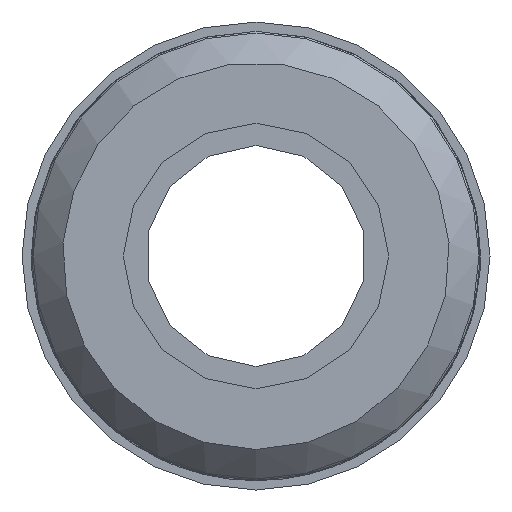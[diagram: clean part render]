
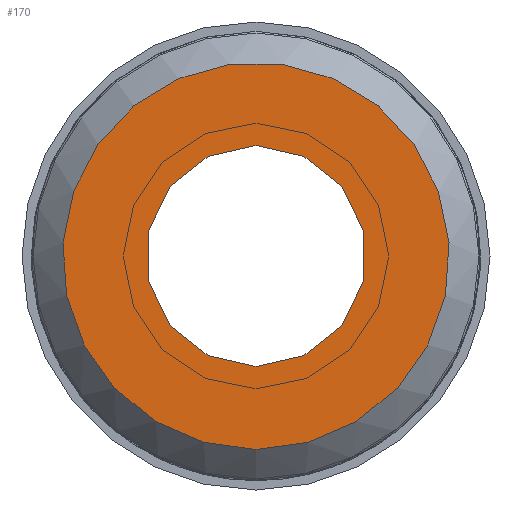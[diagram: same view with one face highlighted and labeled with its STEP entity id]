
A CAD part, front view. The second image highlights one B-rep face of the part: STEP entity #170.
In plain terms, the highlighted planar face has unit normal (0, -1, 0).
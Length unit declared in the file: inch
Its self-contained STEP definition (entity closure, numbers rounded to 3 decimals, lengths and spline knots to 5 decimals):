
#16=FACE_BOUND('',#43,.T.);
#22=PLANE('',#198);
#32=FACE_OUTER_BOUND('',#42,.T.);
#42=EDGE_LOOP('',(#133));
#43=EDGE_LOOP('',(#134,#135));
#66=CIRCLE('',#193,0.0525);
#70=CIRCLE('',#199,0.03);
#71=CIRCLE('',#200,0.03);
#83=VERTEX_POINT('',#282);
#87=VERTEX_POINT('',#294);
#88=VERTEX_POINT('',#295);
#101=EDGE_CURVE('',#83,#83,#66,.T.);
#107=EDGE_CURVE('',#87,#88,#70,.T.);
#108=EDGE_CURVE('',#88,#87,#71,.T.);
#133=ORIENTED_EDGE('',*,*,#101,.F.);
#134=ORIENTED_EDGE('',*,*,#107,.F.);
#135=ORIENTED_EDGE('',*,*,#108,.F.);
#170=ADVANCED_FACE('',(#32,#16),#22,.T.);
#193=AXIS2_PLACEMENT_3D('',#283,#223,#224);
#198=AXIS2_PLACEMENT_3D('',#293,#235,#236);
#199=AXIS2_PLACEMENT_3D('',#296,#237,#238);
#200=AXIS2_PLACEMENT_3D('',#297,#239,#240);
#223=DIRECTION('center_axis',(0.,1.,0.));
#224=DIRECTION('ref_axis',(0.,0.,1.));
#235=DIRECTION('center_axis',(0.,-1.,0.));
#236=DIRECTION('ref_axis',(0.,0.,-1.));
#237=DIRECTION('center_axis',(0.,-1.,0.));
#238=DIRECTION('ref_axis',(1.,0.,0.));
#239=DIRECTION('center_axis',(0.,-1.,0.));
#240=DIRECTION('ref_axis',(1.,0.,0.));
#282=CARTESIAN_POINT('',(0.,0.,-0.0525));
#283=CARTESIAN_POINT('Origin',(0.,0.,0.));
#293=CARTESIAN_POINT('Origin',(0.,0.,-0.03));
#294=CARTESIAN_POINT('',(0.,0.,-0.03));
#295=CARTESIAN_POINT('',(0.,0.,0.03));
#296=CARTESIAN_POINT('Origin',(0.,0.,0.));
#297=CARTESIAN_POINT('Origin',(0.,0.,0.));
